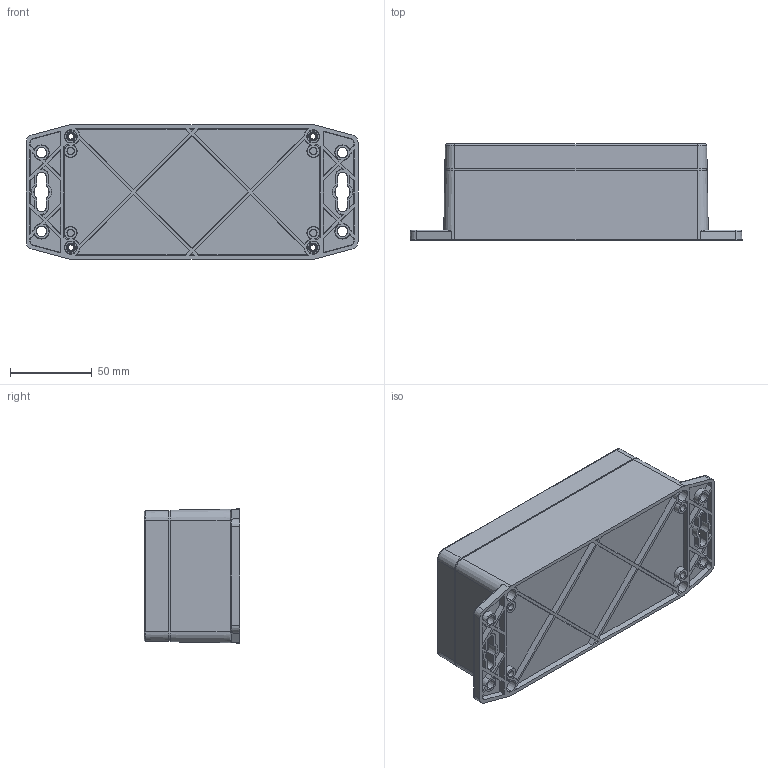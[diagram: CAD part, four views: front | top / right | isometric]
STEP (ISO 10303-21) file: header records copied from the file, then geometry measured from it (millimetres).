
FILE_DESCRIPTION (( 'STEP AP203' ), '1' );
FILE_NAME ('SF-226-0-0.STEP', '2020-02-22T06:44:21', ( '' ), ( '' ), 'SwSTEP 2.0', 'SolidWorks 2020', '' );
FILE_SCHEMA (( 'CONFIG_CONTROL_DESIGN' ));
Length unit declared in the file: millimetre
Products named in the file (4): SE-226_pcb_sample; SF-226-0-0; SE-226-P-1; SF-226-P-2
Assembly tree (3 placements, depth 2):
  SF-226-0-0
    SF-226-P-2
    SE-226-P-1
    SE-226_pcb_sample
Bounding box: 202.5 x 58.5 x 81.81 mm (x, y, z)
Volume: 200278.7 mm3; surface area: 155021.3 mm2
Topology: 7 solids, 7 shells, 1231 faces, 3282 edges, 2158 vertices
Faces by surface type: plane 381, cylinder 344, cone 266, bspline 232, torus 8
Entity records: 41634 total; most frequent: CARTESIAN_POINT 11479, ORIENTED_EDGE 6528, DIRECTION 5820, EDGE_CURVE 3264, AXIS2_PLACEMENT_3D 2163, VERTEX_POINT 2158, LINE 1494, VECTOR 1494
